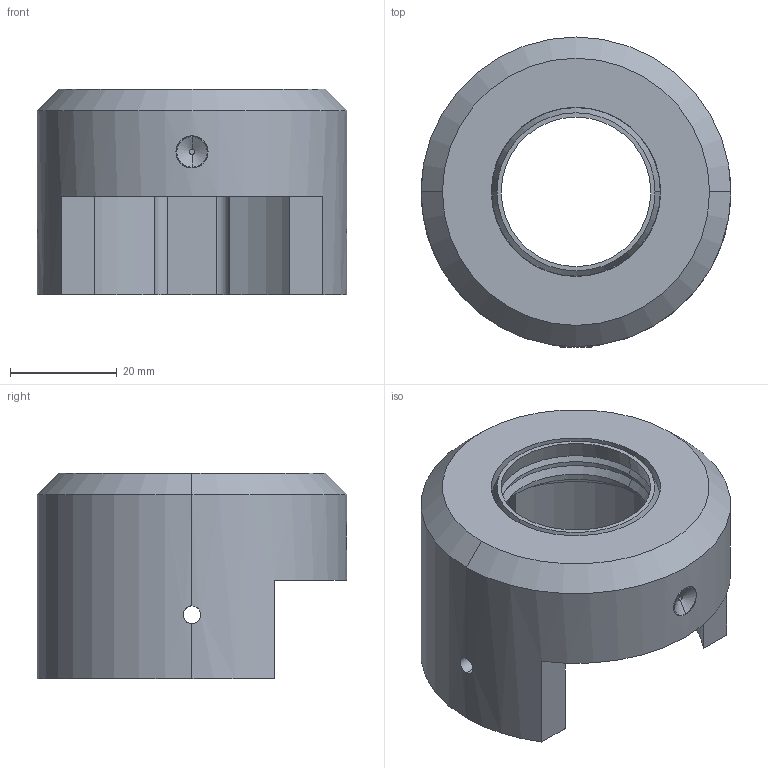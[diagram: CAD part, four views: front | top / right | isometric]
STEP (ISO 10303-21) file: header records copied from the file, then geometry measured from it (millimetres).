
FILE_DESCRIPTION (( 'STEP AP214' ), '1' );
FILE_NAME ('PA01-48!28-R.STEP', '2008-04-09T13:24:48', ( 'Ausderau' ), ( 'NTI AG' ), 'SwSTEP 2.0', 'SolidWorks 2005037', '' );
FILE_SCHEMA (( 'AUTOMOTIVE_DESIGN' ));
Length unit declared in the file: millimetre
Products named in the file (1): PA01-48!28-R
Bounding box: 58 x 58.03 x 38.5 mm (x, y, z)
Volume: 36962.6 mm3; surface area: 14919 mm2
Topology: 1 solids, 1 shells, 58 faces, 138 edges, 83 vertices
Faces by surface type: cylinder 28, plane 14, cone 14, torus 2
Entity records: 2292 total; most frequent: CARTESIAN_POINT 607, DIRECTION 305, ORIENTED_EDGE 276, EDGE_CURVE 138, AXIS2_PLACEMENT_3D 123, VERTEX_POINT 83, EDGE_LOOP 67, CIRCLE 64
